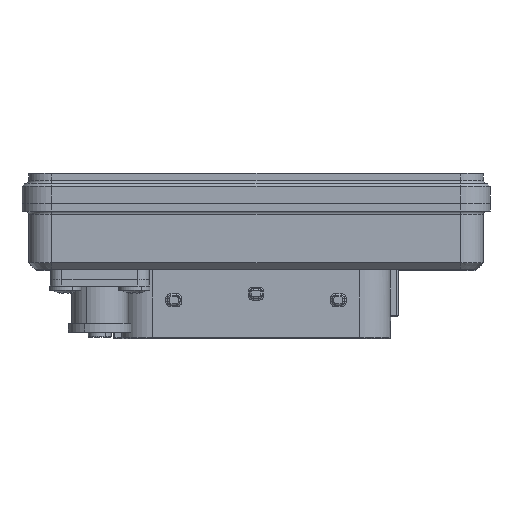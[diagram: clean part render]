
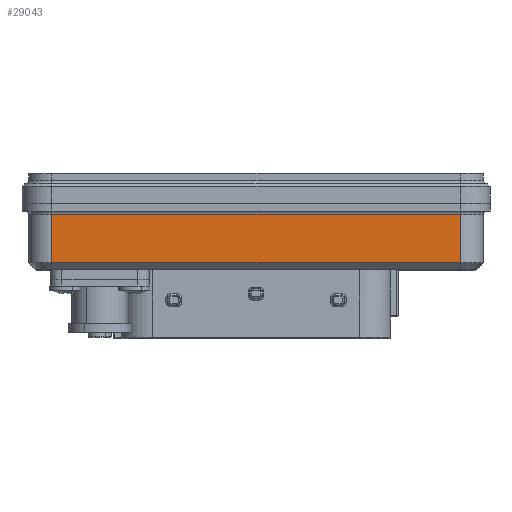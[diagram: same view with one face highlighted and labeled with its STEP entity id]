
A CAD part, left-side view. The second image highlights one B-rep face of the part: STEP entity #29043.
In plain terms, the highlighted planar face has unit normal (1, 0, 0).
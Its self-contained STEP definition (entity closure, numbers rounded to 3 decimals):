
#29016=AXIS2_PLACEMENT_3D('Plane Axis2P3D',#29013,#29014,#29015) ;
#28898=CARTESIAN_POINT('Vertex',(-31.6,62.131,1.6)) ;
#28901=CARTESIAN_POINT('Line Origine',(-31.6,62.131,-5.75)) ;
#28905=CARTESIAN_POINT('Vertex',(-31.6,62.131,-13.1)) ;
#29013=CARTESIAN_POINT('Axis2P3D Location',(-31.6,62.131,0.)) ;
#29018=CARTESIAN_POINT('Line Origine',(-31.6,0.006,1.6)) ;
#29022=CARTESIAN_POINT('Vertex',(-31.6,-62.119,1.6)) ;
#29025=CARTESIAN_POINT('Line Origine',(-31.6,-62.119,-5.75)) ;
#29029=CARTESIAN_POINT('Vertex',(-31.6,-62.119,-13.1)) ;
#29032=CARTESIAN_POINT('Line Origine',(-31.6,0.006,-13.1)) ;
#28902=DIRECTION('Vector Direction',(0.,0.,1.)) ;
#29014=DIRECTION('Axis2P3D Direction',(-1.,0.,0.)) ;
#29015=DIRECTION('Axis2P3D XDirection',(0.,-1.,0.)) ;
#29019=DIRECTION('Vector Direction',(0.,-1.,0.)) ;
#29026=DIRECTION('Vector Direction',(0.,0.,1.)) ;
#29033=DIRECTION('Vector Direction',(0.,-1.,0.)) ;
#28903=VECTOR('Line Direction',#28902,1.) ;
#29020=VECTOR('Line Direction',#29019,1.) ;
#29027=VECTOR('Line Direction',#29026,1.) ;
#29034=VECTOR('Line Direction',#29033,1.) ;
#29038=ORIENTED_EDGE('',*,*,#29024,.F.) ;
#29039=ORIENTED_EDGE('',*,*,#29031,.F.) ;
#29040=ORIENTED_EDGE('',*,*,#29036,.F.) ;
#29041=ORIENTED_EDGE('',*,*,#28907,.T.) ;
#29043=ADVANCED_FACE('Extract.1',(#29042),#29017,.F.) ;
#28907=EDGE_CURVE('',#28906,#28899,#28904,.T.) ;
#29024=EDGE_CURVE('',#29023,#28899,#29021,.F.) ;
#29031=EDGE_CURVE('',#29030,#29023,#29028,.T.) ;
#29036=EDGE_CURVE('',#28906,#29030,#29035,.T.) ;
#29037=EDGE_LOOP('',(#29038,#29039,#29040,#29041)) ;
#29042=FACE_OUTER_BOUND('',#29037,.T.) ;
#28904=LINE('Line',#28901,#28903) ;
#29021=LINE('Line',#29018,#29020) ;
#29028=LINE('Line',#29025,#29027) ;
#29035=LINE('Line',#29032,#29034) ;
#29017=PLANE('Plane',#29016) ;
#28899=VERTEX_POINT('',#28898) ;
#28906=VERTEX_POINT('',#28905) ;
#29023=VERTEX_POINT('',#29022) ;
#29030=VERTEX_POINT('',#29029) ;
